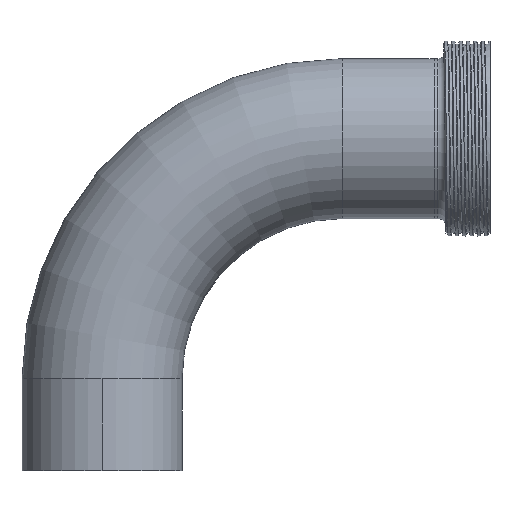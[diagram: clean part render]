
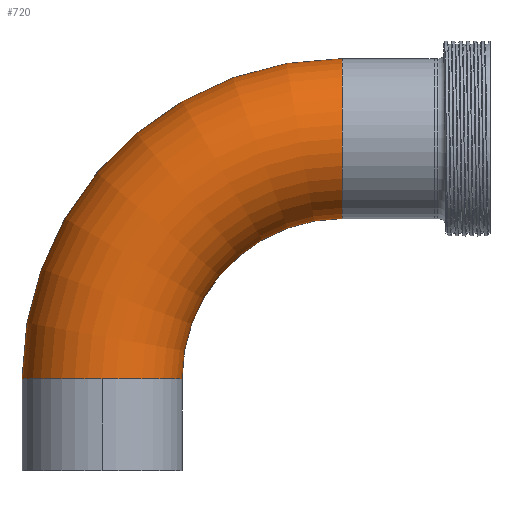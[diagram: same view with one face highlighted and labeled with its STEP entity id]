
A CAD part, top view. The second image highlights one B-rep face of the part: STEP entity #720.
In plain terms, the highlighted toroidal (fillet/blend) face has major radius 95.25 mm and minor radius 31.75 mm.
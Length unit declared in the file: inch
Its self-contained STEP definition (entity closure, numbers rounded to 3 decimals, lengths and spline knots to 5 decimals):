
#82 = DIRECTION ( 'NONE',  ( 0., 0., 1. ) ) ;
#83 = VERTEX_POINT ( 'NONE', #1388 ) ;
#100 = CARTESIAN_POINT ( 'NONE',  ( 3.75, 1.437, 0. ) ) ;
#179 = DIRECTION ( 'NONE',  ( 0., 0., 1. ) ) ;
#566 = CARTESIAN_POINT ( 'NONE',  ( 3.75, 1.437, 0. ) ) ;
#637 = EDGE_CURVE ( 'NONE', #2138, #2024, #2823, .T. ) ;
#719 = CARTESIAN_POINT ( 'NONE',  ( 0., 1.437, 1.25 ) ) ;
#720 = ADVANCED_FACE ( 'NONE', ( #1872 ), #1364, .T. ) ;
#781 = EDGE_CURVE ( 'NONE', #83, #2826, #2043, .T. ) ;
#802 = EDGE_CURVE ( 'NONE', #2138, #1954, #1382, .T. ) ;
#815 = DIRECTION ( 'NONE',  ( -1., 0., 0. ) ) ;
#841 = ORIENTED_EDGE ( 'NONE', *, *, #958, .T. ) ;
#914 = DIRECTION ( 'NONE',  ( 0., 0., -1. ) ) ;
#958 = EDGE_CURVE ( 'NONE', #1954, #83, #2527, .T. ) ;
#977 = CARTESIAN_POINT ( 'NONE',  ( 3.75, 3.937, 0. ) ) ;
#1018 = CARTESIAN_POINT ( 'NONE',  ( -1.25, 1.437, 0. ) ) ;
#1169 = EDGE_CURVE ( 'NONE', #2024, #2826, #2307, .T. ) ;
#1194 = CARTESIAN_POINT ( 'NONE',  ( 0., 1.437, 0. ) ) ;
#1244 = CARTESIAN_POINT ( 'NONE',  ( 3.75, 6.437, 0. ) ) ;
#1364 = TOROIDAL_SURFACE ( 'NONE', #2995, 3.75, 1.25 ) ;
#1382 = CIRCLE ( 'NONE', #2902, 1.25 ) ;
#1388 = CARTESIAN_POINT ( 'NONE',  ( 1.25, 1.437, 0. ) ) ;
#1396 = ORIENTED_EDGE ( 'NONE', *, *, #637, .F. ) ;
#1441 = DIRECTION ( 'NONE',  ( 0., 0., 1. ) ) ;
#1566 = DIRECTION ( 'NONE',  ( 1., 0., 0. ) ) ;
#1673 = DIRECTION ( 'NONE',  ( 0., 1., 0. ) ) ;
#1872 = FACE_OUTER_BOUND ( 'NONE', #2848, .T. ) ;
#1954 = VERTEX_POINT ( 'NONE', #719 ) ;
#2024 = VERTEX_POINT ( 'NONE', #1244 ) ;
#2043 = CIRCLE ( 'NONE', #2955, 2.5 ) ;
#2089 = DIRECTION ( 'NONE',  ( -1., 0., 0. ) ) ;
#2129 = ORIENTED_EDGE ( 'NONE', *, *, #781, .T. ) ;
#2138 = VERTEX_POINT ( 'NONE', #1018 ) ;
#2205 = AXIS2_PLACEMENT_3D ( 'NONE', #3030, #1566, #82 ) ;
#2266 = ORIENTED_EDGE ( 'NONE', *, *, #802, .T. ) ;
#2307 = CIRCLE ( 'NONE', #2205, 1.25 ) ;
#2311 = DIRECTION ( 'NONE',  ( 0., 0., -1. ) ) ;
#2400 = CARTESIAN_POINT ( 'NONE',  ( 3.75, 1.437, 0. ) ) ;
#2527 = CIRCLE ( 'NONE', #2674, 1.25 ) ;
#2640 = DIRECTION ( 'NONE',  ( -1., 0., 0. ) ) ;
#2663 = ORIENTED_EDGE ( 'NONE', *, *, #1169, .F. ) ;
#2674 = AXIS2_PLACEMENT_3D ( 'NONE', #1194, #2913, #1441 ) ;
#2823 = CIRCLE ( 'NONE', #3166, 5. ) ;
#2826 = VERTEX_POINT ( 'NONE', #977 ) ;
#2848 = EDGE_LOOP ( 'NONE', ( #1396, #2266, #841, #2129, #2663 ) ) ;
#2902 = AXIS2_PLACEMENT_3D ( 'NONE', #3130, #1673, #179 ) ;
#2913 = DIRECTION ( 'NONE',  ( 0., 1., 0. ) ) ;
#2955 = AXIS2_PLACEMENT_3D ( 'NONE', #2400, #914, #2640 ) ;
#2995 = AXIS2_PLACEMENT_3D ( 'NONE', #100, #3050, #2089 ) ;
#3030 = CARTESIAN_POINT ( 'NONE',  ( 3.75, 5.187, 0. ) ) ;
#3050 = DIRECTION ( 'NONE',  ( 0., 0., -1. ) ) ;
#3130 = CARTESIAN_POINT ( 'NONE',  ( 0., 1.437, 0. ) ) ;
#3166 = AXIS2_PLACEMENT_3D ( 'NONE', #566, #2311, #815 ) ;
